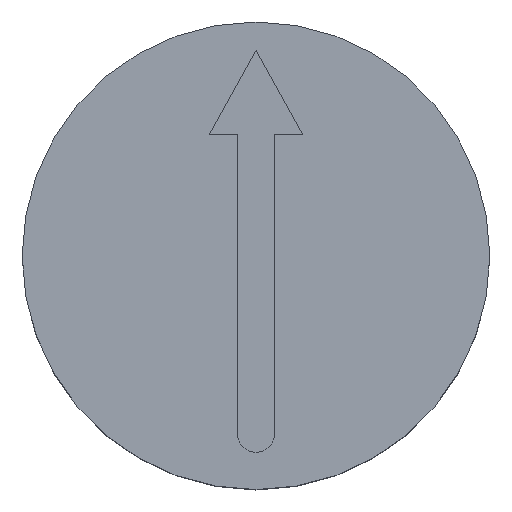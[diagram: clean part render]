
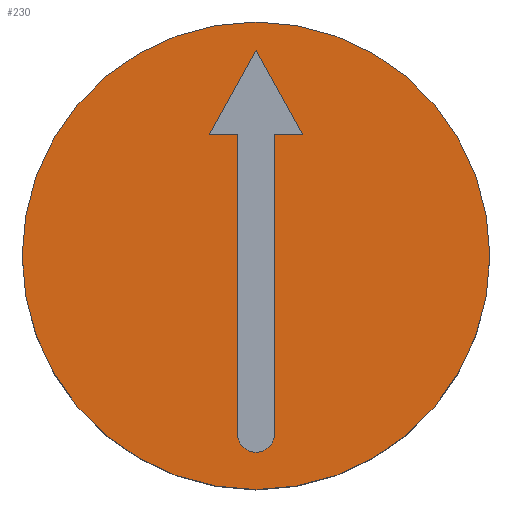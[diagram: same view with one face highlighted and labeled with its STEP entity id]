
A CAD part, top view. The second image highlights one B-rep face of the part: STEP entity #230.
In plain terms, the highlighted planar face has unit normal (0, 0, 1).
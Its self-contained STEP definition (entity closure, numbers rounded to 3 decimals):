
#15=FACE_BOUND('',#55,.T.);
#18=CIRCLE('',#248,0.1);
#23=CIRCLE('',#263,1.25);
#40=FACE_OUTER_BOUND('',#54,.T.);
#54=EDGE_LOOP('',(#198));
#55=EDGE_LOOP('',(#199,#200,#201,#202,#203,#204,#205));
#58=LINE('',#337,#80);
#63=LINE('',#351,#85);
#66=LINE('',#357,#88);
#69=LINE('',#363,#91);
#72=LINE('',#369,#94);
#75=LINE('',#374,#97);
#80=VECTOR('',#271,10.);
#85=VECTOR('',#284,10.);
#88=VECTOR('',#289,10.);
#91=VECTOR('',#294,10.);
#94=VECTOR('',#299,10.);
#97=VECTOR('',#304,10.);
#102=VERTEX_POINT('',#335);
#103=VERTEX_POINT('',#336);
#106=VERTEX_POINT('',#344);
#108=VERTEX_POINT('',#350);
#110=VERTEX_POINT('',#356);
#112=VERTEX_POINT('',#362);
#114=VERTEX_POINT('',#368);
#119=VERTEX_POINT('',#389);
#121=EDGE_CURVE('',#102,#103,#58,.T.);
#125=EDGE_CURVE('',#106,#102,#18,.T.);
#128=EDGE_CURVE('',#108,#106,#63,.T.);
#131=EDGE_CURVE('',#110,#108,#66,.T.);
#134=EDGE_CURVE('',#112,#110,#69,.T.);
#137=EDGE_CURVE('',#114,#112,#72,.T.);
#140=EDGE_CURVE('',#103,#114,#75,.T.);
#147=EDGE_CURVE('',#119,#119,#23,.T.);
#198=ORIENTED_EDGE('',*,*,#147,.T.);
#199=ORIENTED_EDGE('',*,*,#121,.T.);
#200=ORIENTED_EDGE('',*,*,#140,.T.);
#201=ORIENTED_EDGE('',*,*,#137,.T.);
#202=ORIENTED_EDGE('',*,*,#134,.T.);
#203=ORIENTED_EDGE('',*,*,#131,.T.);
#204=ORIENTED_EDGE('',*,*,#128,.T.);
#205=ORIENTED_EDGE('',*,*,#125,.T.);
#216=PLANE('',#265);
#230=ADVANCED_FACE('',(#40,#15),#216,.T.);
#248=AXIS2_PLACEMENT_3D('',#345,#277,#278);
#263=AXIS2_PLACEMENT_3D('',#390,#324,#325);
#265=AXIS2_PLACEMENT_3D('',#394,#329,#330);
#271=DIRECTION('',(0.,1.,0.));
#277=DIRECTION('center_axis',(0.,0.,-1.));
#278=DIRECTION('ref_axis',(-1.,0.,0.));
#284=DIRECTION('',(0.,-1.,0.));
#289=DIRECTION('',(-1.,0.,0.));
#294=DIRECTION('',(0.486,-0.874,0.));
#299=DIRECTION('',(0.486,0.874,0.));
#304=DIRECTION('',(-1.,0.,0.));
#324=DIRECTION('center_axis',(0.,0.,1.));
#325=DIRECTION('ref_axis',(1.,0.,0.));
#329=DIRECTION('center_axis',(0.,0.,1.));
#330=DIRECTION('ref_axis',(1.,0.,0.));
#335=CARTESIAN_POINT('',(-0.1,-0.95,1.2));
#336=CARTESIAN_POINT('',(-0.1,0.65,1.2));
#337=CARTESIAN_POINT('',(-0.1,-0.475,1.2));
#344=CARTESIAN_POINT('',(0.1,-0.95,1.2));
#345=CARTESIAN_POINT('Origin',(0.,-0.95,
1.2));
#350=CARTESIAN_POINT('',(0.1,0.65,1.2));
#351=CARTESIAN_POINT('',(0.1,0.325,1.2));
#356=CARTESIAN_POINT('',(0.25,0.65,1.2));
#357=CARTESIAN_POINT('',(0.125,0.65,1.2));
#362=CARTESIAN_POINT('',(0.,1.1,1.2));
#363=CARTESIAN_POINT('',(0.233,0.68,1.2));
#368=CARTESIAN_POINT('',(-0.25,0.65,1.2));
#369=CARTESIAN_POINT('',(-0.358,0.455,1.2));
#374=CARTESIAN_POINT('',(-0.05,0.65,1.2));
#389=CARTESIAN_POINT('',(-1.25,0.,1.2));
#390=CARTESIAN_POINT('Origin',(0.,0.,1.2));
#394=CARTESIAN_POINT('Origin',(0.,0.,1.2));
